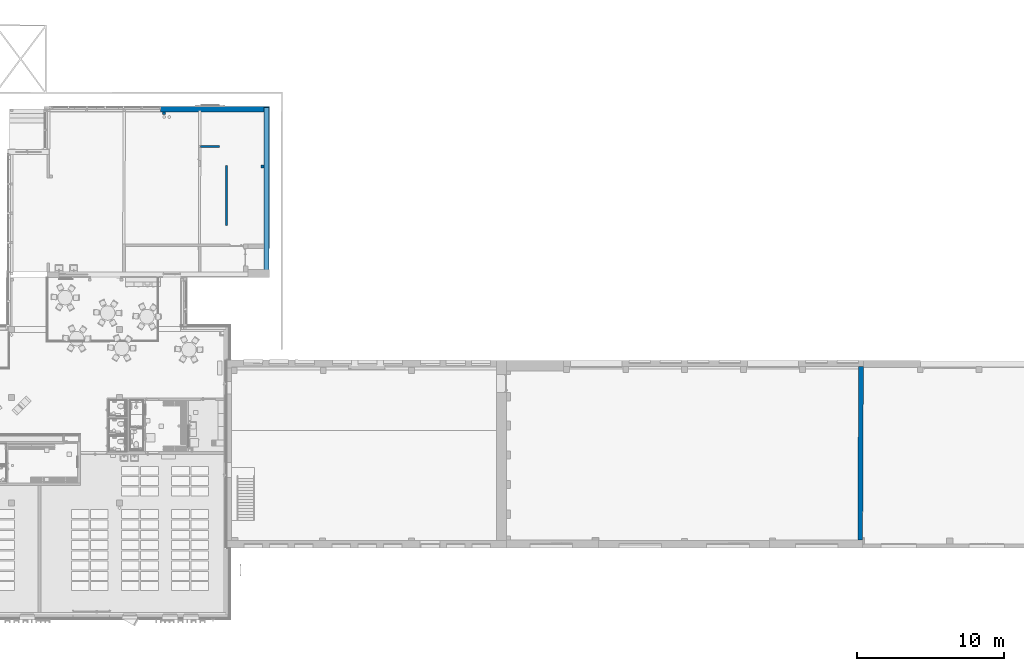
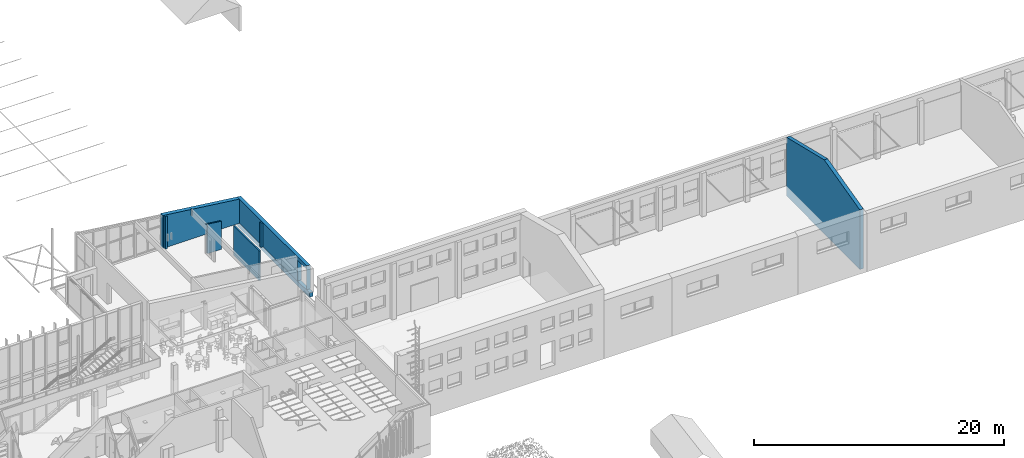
# One storey, part 163 of 301: 8 walls, 1 opening.
"""IFC2X3 building model written with IfcOpenShell, lengths in millimetres."""

from ifc_helpers import new_model, entity, si_unit, converted_unit, derived_unit, money_unit, direction, frame, origin_with_axes, place, context, subcontext, project, spatial, faceted_brep, material, type_object, element, save


model = new_model("IFC2X3")

# Units and contexts
model_context = context("Model", 3, precision=0.01, world=origin_with_axes(), true_north=direction((0.0, 1.0)))
body_context = subcontext(model_context, "Body", "Model", "MODEL_VIEW")
ifc_project = project(units=[si_unit("LENGTHUNIT", "METRE", prefix="MILLI"), si_unit("AREAUNIT", "SQUARE_METRE"), si_unit("VOLUMEUNIT", "CUBIC_METRE"), converted_unit("PLANEANGLEUNIT", "DEGREE", entity("IfcPlaneAngleMeasure", 0.0174532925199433), si_unit("PLANEANGLEUNIT", "RADIAN"), dimensions=[0, 0, 0, 0, 0, 0, 0]), money_unit("EUR"), converted_unit("TIMEUNIT", "Year", entity("IfcTimeMeasure", 31557600.0), si_unit("TIMEUNIT", "SECOND"), dimensions=[0, 0, 1, 0, 0, 0, 0]), si_unit("MASSUNIT", "GRAM", prefix="KILO"), si_unit("THERMODYNAMICTEMPERATUREUNIT", "DEGREE_CELSIUS"), si_unit("LUMINOUSINTENSITYUNIT", "LUMEN"), si_unit("ENERGYUNIT", "JOULE", prefix="MEGA"), derived_unit("THERMALCONDUCTANCEUNIT", [(si_unit("POWERUNIT", "WATT"), 1), (si_unit("LENGTHUNIT", "METRE"), -1), (si_unit("THERMODYNAMICTEMPERATUREUNIT", "KELVIN"), -1)]), derived_unit("SPECIFICHEATCAPACITYUNIT", [(si_unit("ENERGYUNIT", "JOULE"), 1), (si_unit("MASSUNIT", "GRAM", prefix="KILO"), -1), (si_unit("THERMODYNAMICTEMPERATUREUNIT", "KELVIN"), -1)]), derived_unit("MASSDENSITYUNIT", [(si_unit("MASSUNIT", "GRAM", prefix="KILO"), 1), (si_unit("VOLUMEUNIT", "CUBIC_METRE"), -1)])], contexts=[model_context])

# Site, building, storey
site_placement = place(None, frame((0.0, 0.0, 8650.0), z_axis=(0.0, 0.0, 1.0), x_axis=(1.0, 0.0, 0.0)))
site = spatial("IfcSite", under=ifc_project, at=site_placement, Name="43301:001:0844", CompositionType="ELEMENT")
building_placement = place(site_placement, origin_with_axes())
building = spatial("IfcBuilding", under=site, at=building_placement, Name="Kuressaare Ametikooli tuulikute mehaanikute õppekorpus", CompositionType="ELEMENT")
storey_placement = place(building_placement, origin_with_axes())
storey = spatial("IfcBuildingStorey", under=building, at=storey_placement, Name="1.korrus", CompositionType="ELEMENT", Elevation=0.0)

# Wall
ifc_material = material(Name="GENEERILINE - KONSTRUKTRIOON")
wall_type_1 = type_object("IfcWallType", Name="GENEERILINE - KONSTRUKTRIOON 360", PredefinedType="NOTDEFINED")
wall_1_placement = place(storey_placement, frame((136130.4547532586, 43564.1461379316, 0.0), z_axis=(0.0, 0.0, 1.0), x_axis=(-1.0, 0.0, 0.0)))
element("IfcWall", 1, at=wall_1_placement, inside=storey, type_object=wall_type_1, material=ifc_material, Name="VS-XX", context=body_context, shape_type="Brep", body=[
    faceted_brep([(7414.104555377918, 0.0, 3217.6925883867), (360.0000000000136, 0.0, 2351.557457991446), (360.0000000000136, 0.0, 0.0), (7414.104555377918, 0.0, 0.0), (360.0000000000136, 359.9999999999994, 2351.557457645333), (7414.104555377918, 359.9999999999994, 3217.692588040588), (4742.112313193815, 359.9999999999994, 2889.613193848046), (4742.11231245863, 266.1088864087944, 2889.613193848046), (4669.524440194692, 266.2655740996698, 2880.70052382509), (4669.72677469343, 359.9999999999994, 2880.725367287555), (360.0000000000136, 359.9999999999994, 0.0), (7414.104555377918, 359.9999999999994, 0.0), (4669.72677469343, 359.9999999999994, 2289.613193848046), (4829.727147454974, 359.9999999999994, 2289.613193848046), (4829.727147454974, 359.9999999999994, 2889.613193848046), (4829.524067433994, 265.9201999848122, 2889.613193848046), (4829.524067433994, 265.9201999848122, 2289.613193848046), (4669.524440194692, 266.2655740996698, 2289.613193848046)], [[[0, 1, 2, 3]], [[4, 1, 0, 5, 6, 7, 8, 9]], [[1, 4, 10, 2]], [[10, 11, 3, 2]], [[5, 0, 3, 11]], [[6, 5, 11, 10, 4, 9, 12, 13, 14]], [[7, 6, 14, 15]], [[8, 7, 15, 16, 17]], [[9, 8, 17, 12]], [[17, 16, 13, 12]], [[16, 15, 14, 13]]]),
])

# Wall, opening
wall_2_placement = place(storey_placement, frame((136130.4547532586, 43564.1461379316, 0.0), z_axis=(0.0, 0.0, 1.0), x_axis=(0.0, -1.0, 0.0)))
wall_2 = element("IfcWall", 2, at=wall_2_placement, inside=storey, type_object=wall_type_1, material=ifc_material, Name="VS-XX", context=body_context, shape_type="Brep", body=[
    faceted_brep([(0.0, -360.0000000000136, 2351.557457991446), (0.0, 0.0, 2307.355016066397), (0.0, 0.0, 0.0), (0.0, -360.0000000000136, 0.0), (11075.31885216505, 0.0, 2307.355005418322), (11075.31885216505, -360.0000000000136, 2351.557447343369), (11075.31885216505, 0.0, 0.0), (11075.23737023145, 0.0, 0.0), (11075.23737023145, 0.0, 2040.0), (9655.561772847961, 0.0, 2040.0), (9655.561772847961, 0.0, 0.0), (9655.561772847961, -360.0000000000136, 0.0), (9655.561772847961, -360.0000000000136, 2040.0), (11075.23737023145, -360.0000000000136, 2040.0), (11075.23737023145, -360.0000000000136, 0.0), (11075.31885216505, -360.0000000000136, 0.0)], [[[0, 1, 2, 3]], [[4, 1, 0, 5]], [[1, 4, 6, 7, 8, 9, 10, 2]], [[3, 2, 10, 11]], [[5, 0, 3, 11, 12, 13, 14, 15]], [[4, 5, 15, 6]], [[6, 15, 14, 7]], [[14, 13, 8, 7]], [[13, 12, 9, 8]], [[12, 11, 10, 9]]]),
])
opening_placement = place(wall_2_placement, frame((43564.14613793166, -136130.4547532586, 0.0), z_axis=(0.0, 0.0, 1.0), x_axis=(0.0, 1.0, 0.0)))
element("IfcOpeningElement", 3, at=opening_placement, cuts=wall_2, Name="ava", context=body_context, shape_type="Brep", body=[
    faceted_brep([(135410.4547532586, 33908.5843650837, 0.0), (135410.4547532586, 33908.5843650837, 2040.0), (136490.4547532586, 33908.5843650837, 2040.0), (136490.4547532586, 33908.5843650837, 0.0), (135410.4547532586, 32488.90876770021, 0.0), (135410.4547532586, 32488.90876770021, 2040.0), (136490.4547532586, 32488.90876770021, 2040.0), (136490.4547532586, 32488.90876770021, 0.0)], [[[0, 1, 2, 3]], [[0, 4, 5, 1]], [[1, 5, 6, 2]], [[3, 2, 6, 7]], [[4, 0, 3, 7]], [[5, 4, 7, 6]]]),
])

# Walls
wall_type_2 = type_object("IfcWallType", Name="GENEERILINE - KONSTRUKTRIOON 330", PredefinedType="NOTDEFINED")
wall_3_placement = place(storey_placement, frame((176232.001292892, 26292.98866271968, -1000.0), z_axis=(0.0, 0.0, 1.0), x_axis=(-0.004684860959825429, -0.999989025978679, 0.0)))
element("IfcWall", 4, at=wall_3_placement, inside=storey, type_object=wall_type_2, material=ifc_material, Name="SS-XX", context=body_context, shape_type="Brep", body=[
    faceted_brep([(419.9986094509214, 1.28064051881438, 5724.101802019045), (418.4585880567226, 330.0000000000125, 5724.101802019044), (418.4585880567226, 330.0000000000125, 0.0), (420.0046091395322, 0.0, 0.0), (420.0046091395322, 0.0, 5270.0), (419.9986094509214, 1.28064051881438, 5270.0), (6465.226527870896, 330.0000000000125, 7206.112560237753), (444.0633819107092, 1.393381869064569, 5729.999999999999), (444.0699097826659, 0.0, 5729.999999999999), (6466.772548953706, 0.0, 7206.112560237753), (12213.91897733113, 330.0000372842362, 5806.357600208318), (12213.91897730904, 330.0000420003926, 5200.0), (12083.91753731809, 329.9999999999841, 5200.0), (12083.91753731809, 329.9999999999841, 1000.0), (12213.91897730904, 330.0000420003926, 1000.0), (12213.9189775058, 329.9999999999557, 0.0), (12215.46499858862, 0.0, 0.0), (600.0065844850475, 0.0, 5729.999999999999), (600.0065844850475, 0.0, 5270.0), (12215.46499858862, 0.0, 5806.357600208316), (599.9966341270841, 2.123915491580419, 5270.0), (599.9966341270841, 2.123915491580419, 5729.999999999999), (12083.92039038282, 329.3910100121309, 5200.0), (12083.92039038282, 329.3910100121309, 1000.0)], [[[0, 1, 2, 3, 4, 5]], [[6, 1, 0, 7, 8, 9]], [[6, 10, 11, 12, 13, 14, 15, 2, 1]], [[15, 16, 3, 2]], [[9, 8, 17, 18, 4, 3, 16, 19]], [[4, 18, 20, 5]], [[7, 0, 5, 20, 21]], [[8, 7, 21, 17]], [[10, 6, 9, 19]], [[10, 19, 16, 15, 14, 11]], [[11, 22, 12]], [[22, 23, 13, 12]], [[13, 23, 14]], [[17, 21, 20, 18]], [[23, 22, 11, 14]]]),
])
wall_type_3 = type_object("IfcWallType", Name="GENEERILINE - KONSTRUKTRIOON 190", PredefinedType="NOTDEFINED")
wall_4_placement = place(storey_placement, frame((135770.4542286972, 39593.717278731, 0.0), z_axis=(0.0, 0.0, 1.0), x_axis=(-0.9999999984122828, -5.63509933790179e-05, 0.0)))
element("IfcWall", 5, at=wall_4_placement, inside=storey, type_object=wall_type_3, material=ifc_material, context=body_context, shape_type="Brep", body=[
    faceted_brep([(0.0, 189.9999999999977, 0.0), (202.1343132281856, 189.9999999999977, 0.0), (202.1343132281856, 0.0, 0.0), (0.0, 0.0, 0.0), (202.1343132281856, 189.9999999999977, 2376.375176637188), (0.0, 189.9999999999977, 2351.556203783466), (202.1343132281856, 0.0, 2376.376491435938), (0.0, 0.0, 2351.557518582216)], [[[0, 1, 2, 3]], [[4, 1, 0, 5]], [[2, 1, 4, 6]], [[3, 2, 6, 7]], [[5, 0, 3, 7]], [[4, 5, 7, 6]]]),
])
wall_5_placement = place(storey_placement, frame((128846.9543753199, 43204.1461379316, 0.0), z_axis=(0.0, 0.0, 1.0), x_axis=(5.635099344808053e-05, -0.9999999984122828, 0.0)))
element("IfcWall", 6, at=wall_5_placement, inside=storey, type_object=wall_type_3, material=ifc_material, context=body_context, shape_type="Brep", body=[
    faceted_brep([(0.0, 189.9999999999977, 0.0), (189.9999999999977, 189.9999999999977, 0.0), (190.0000000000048, 0.0, 0.0), (0.0, 0.0, 0.0), (189.9999999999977, 189.9999999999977, 3178.326030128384), (0.0, 189.9999999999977, 3178.32734492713), (190.0000000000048, 0.0, 3201.655096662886), (0.0, 0.0, 3201.656411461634)], [[[0, 1, 2, 3]], [[4, 1, 0, 5]], [[2, 1, 4, 6]], [[3, 2, 6, 7]], [[5, 0, 3, 7]], [[4, 5, 7, 6]]]),
])
wall_type_4 = type_object("IfcWallType", Name="GENEERILINE - KONSTRUKTRIOON 310", PredefinedType="NOTDEFINED")
wall_6_placement = place(storey_placement, frame((136080.4547532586, 43514.1461379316, -450.0), z_axis=(0.0, 0.0, 1.0), x_axis=(0.0, -1.0, 0.0)))
element("IfcWall", 7, at=wall_6_placement, inside=storey, type_object=wall_type_4, material=ifc_material, Name="VS-XX", context=body_context, shape_type="Brep", body=[
    faceted_brep([(11505.35933179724, -310.0000000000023, 450.0), (11505.35933179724, 0.0, 450.0), (0.0, 0.0, 450.0), (0.0, -310.0000000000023, 450.0), (11505.35933179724, -310.0000000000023, 0.0), (11505.35933179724, 0.0, 0.0), (0.0, 0.0, 0.0), (0.0, -310.0000000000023, 0.0)], [[[0, 1, 2, 3]], [[1, 0, 4, 5]], [[1, 5, 6, 2]], [[7, 3, 2, 6]], [[4, 0, 3, 7]], [[5, 4, 7, 6]]]),
])
wall_type_5 = type_object("IfcWallType", Name="GENEERILINE - KONSTRUKTRIOON 150", PredefinedType="NOTDEFINED")
wall_7_placement = place(storey_placement, frame((133130.5807684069, 39558.53308406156, 0.0), z_axis=(0.0, 0.0, 1.0), x_axis=(0.0, -1.0, 0.0)))
element("IfcWall", 8, at=wall_7_placement, inside=storey, type_object=wall_type_5, material=ifc_material, context=body_context, shape_type="Brep", body=[
    faceted_brep([(0.0, 150.0000000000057, 0.0), (4078.945486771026, 150.0000000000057, 0.0), (4078.945486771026, 0.0, 0.0), (0.0, 0.0, 0.0), (4078.945486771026, 150.0000000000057, 2883.217978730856), (0.0, 150.0000000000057, 2883.217982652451), (4078.945486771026, 0.0, 2901.635662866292), (0.0, 0.0, 2901.635666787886)], [[[0, 1, 2, 3]], [[4, 1, 0, 5]], [[2, 1, 4, 6]], [[3, 2, 6, 7]], [[5, 0, 3, 7]], [[4, 5, 7, 6]]]),
])
wall_type_6 = type_object("IfcWallType", Name="GENEERILINE - KONSTRUKTRIOON 130", PredefinedType="NOTDEFINED")
wall_8_placement = place(storey_placement, frame((132712.028503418, 40916.74613952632, 0.0), z_axis=(0.0, 0.0, 1.0), x_axis=(-0.9999999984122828, -5.635099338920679e-05, 0.0)))
element("IfcWall", 9, at=wall_8_placement, inside=storey, type_object=wall_type_6, material=ifc_material, context=body_context, shape_type="Brep", body=[
    faceted_brep([(1266.238270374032, 0.0, 0.0), (1266.238270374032, 0.0, 2289.613193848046), (1256.23824584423, 0.0, 2289.613193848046), (1256.23824584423, 0.0, 2881.331640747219), (0.0, 0.0, 2727.084979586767), (0.0, 0.0, 0.0), (1266.52621316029, 130.0000000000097, 0.0), (1266.52621316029, 130.0000000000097, 2289.613193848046), (1256.526188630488, 130.0000000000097, 2289.613193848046), (1256.526188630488, 130.0000000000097, 2881.366096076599), (0.0, 130.0000000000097, 2727.084079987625), (0.0, 130.0000000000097, 0.0)], [[[0, 1, 2, 3, 4, 5]], [[6, 7, 1, 0]], [[8, 2, 1, 7]], [[3, 2, 8, 9]], [[3, 9, 10, 4]], [[11, 5, 4, 10]], [[5, 11, 6, 0]], [[9, 8, 7, 6, 11, 10]]]),
    faceted_brep([(1323.686083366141, 0.0, 2889.613193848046), (1416.238638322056, 0.0, 2889.613193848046), (1416.238638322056, 0.0, 2900.977218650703), (1416.238638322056, 130.0000000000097, 2889.613193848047), (1323.693410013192, 130.0000000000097, 2889.613193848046), (1416.238638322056, 130.0000000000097, 2900.976319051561)], [[[0, 1, 2]], [[3, 1, 0, 4]], [[2, 1, 3, 5]], [[0, 2, 5, 4]], [[5, 3, 4]]]),
])

save(model, "model.ifc")
